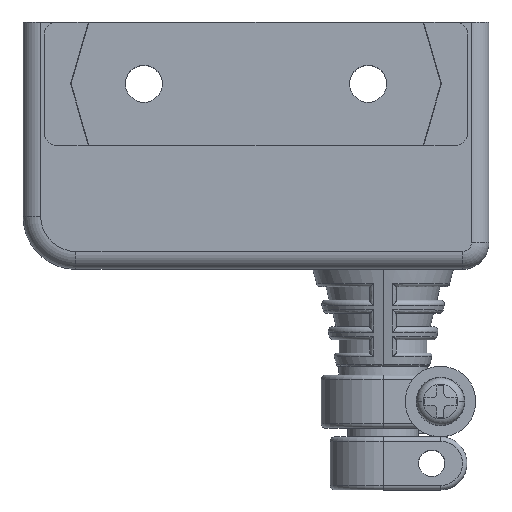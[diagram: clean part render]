
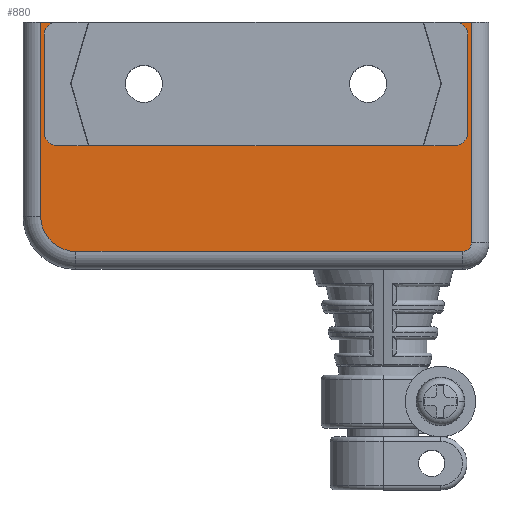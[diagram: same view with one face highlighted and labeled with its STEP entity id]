
A CAD part, top view. The second image highlights one B-rep face of the part: STEP entity #880.
In plain terms, the highlighted planar face has unit normal (0, 0, 1).
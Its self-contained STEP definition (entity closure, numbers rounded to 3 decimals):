
#10=CARTESIAN_POINT('',(0.,0.,10.5));
#20=DIRECTION('',(0.,0.,1.));
#30=DIRECTION('',(1.,0.,0.));
#40=AXIS2_PLACEMENT_3D('',#10,#20,#30);
#50=PLANE('',#40);
#60=CARTESIAN_POINT('',(21.546,7.09,10.5));
#70=DIRECTION('',(0.,0.,1.));
#80=DIRECTION('',(1.,0.,0.));
#90=AXIS2_PLACEMENT_3D('',#60,#70,#80);
#100=CIRCLE('',#90,2.1);
#110=CARTESIAN_POINT('',(23.646,7.09,10.5));
#120=VERTEX_POINT('',#110);
#130=CARTESIAN_POINT('',(19.446,7.09,10.5));
#140=VERTEX_POINT('',#130);
#150=EDGE_CURVE('',#120,#140,#100,.T.);
#160=ORIENTED_EDGE('',*,*,#150,.F.);
#170=EDGE_CURVE('',#140,#120,#100,.T.);
#180=ORIENTED_EDGE('',*,*,#170,.F.);
#190=EDGE_LOOP('',(#180,#160));
#200=FACE_BOUND('',#190,.T.);
#210=CARTESIAN_POINT('',(-3.854,7.09,10.5));
#220=DIRECTION('',(0.,0.,1.));
#230=DIRECTION('',(1.,0.,0.));
#240=AXIS2_PLACEMENT_3D('',#210,#220,#230);
#250=CIRCLE('',#240,2.1);
#260=CARTESIAN_POINT('',(-1.754,7.09,10.5));
#270=VERTEX_POINT('',#260);
#280=CARTESIAN_POINT('',(-5.954,7.09,10.5));
#290=VERTEX_POINT('',#280);
#300=EDGE_CURVE('',#270,#290,#250,.T.);
#310=ORIENTED_EDGE('',*,*,#300,.F.);
#320=EDGE_CURVE('',#290,#270,#250,.T.);
#330=ORIENTED_EDGE('',*,*,#320,.F.);
#340=EDGE_LOOP('',(#330,#310));
#350=FACE_BOUND('',#340,.T.);
#360=CARTESIAN_POINT('',(32.246,-10.91,10.5));
#370=DIRECTION('',(0.,0.,-1.));
#380=DIRECTION('',(1.,0.,0.));
#390=AXIS2_PLACEMENT_3D('',#360,#370,#380);
#400=CIRCLE('',#390,1.);
#410=CARTESIAN_POINT('',(33.246,-10.91,10.5));
#420=VERTEX_POINT('',#410);
#430=CARTESIAN_POINT('',(32.246,-11.91,10.5));
#440=VERTEX_POINT('',#430);
#450=EDGE_CURVE('',#420,#440,#400,.T.);
#460=ORIENTED_EDGE('',*,*,#450,.F.);
#470=CARTESIAN_POINT('',(0.,-11.91,10.5));
#480=DIRECTION('',(-1.,0.,0.));
#490=VECTOR('',#480,1.);
#500=LINE('',#470,#490);
#510=CARTESIAN_POINT('',(-11.554,-11.91,10.5));
#520=VERTEX_POINT('',#510);
#530=EDGE_CURVE('',#440,#520,#500,.T.);
#540=ORIENTED_EDGE('',*,*,#530,.F.);
#550=CARTESIAN_POINT('',(-11.554,-7.91,10.5));
#560=DIRECTION('',(0.,0.,1.));
#570=DIRECTION('',(1.,0.,0.));
#580=AXIS2_PLACEMENT_3D('',#550,#560,#570);
#590=CIRCLE('',#580,4.);
#600=CARTESIAN_POINT('',(-15.554,-7.91,10.5));
#610=VERTEX_POINT('',#600);
#620=EDGE_CURVE('',#610,#520,#590,.T.);
#630=ORIENTED_EDGE('',*,*,#620,.T.);
#640=CARTESIAN_POINT('',(-15.554,0.,10.5));
#650=DIRECTION('',(0.,1.,0.));
#660=VECTOR('',#650,1.);
#670=LINE('',#640,#660);
#680=CARTESIAN_POINT('',(-15.554,14.09,10.5));
#690=VERTEX_POINT('',#680);
#700=EDGE_CURVE('',#610,#690,#670,.T.);
#710=ORIENTED_EDGE('',*,*,#700,.F.);
#720=CARTESIAN_POINT('',(-16.354,14.09,10.5));
#730=DIRECTION('',(-1.,0.,0.));
#740=VECTOR('',#730,1.);
#750=LINE('',#720,#740);
#760=CARTESIAN_POINT('',(33.246,14.09,10.5));
#770=VERTEX_POINT('',#760);
#780=EDGE_CURVE('',#770,#690,#750,.T.);
#790=ORIENTED_EDGE('',*,*,#780,.T.);
#800=CARTESIAN_POINT('',(33.246,0.,10.5));
#810=DIRECTION('',(0.,-1.,0.));
#820=VECTOR('',#810,1.);
#830=LINE('',#800,#820);
#840=EDGE_CURVE('',#770,#420,#830,.T.);
#850=ORIENTED_EDGE('',*,*,#840,.F.);
#860=EDGE_LOOP('',(#850,#790,#710,#630,#540,#460));
#870=FACE_OUTER_BOUND('',#860,.T.);
#880=ADVANCED_FACE('',(#200,#350,#870),#50,.T.);
